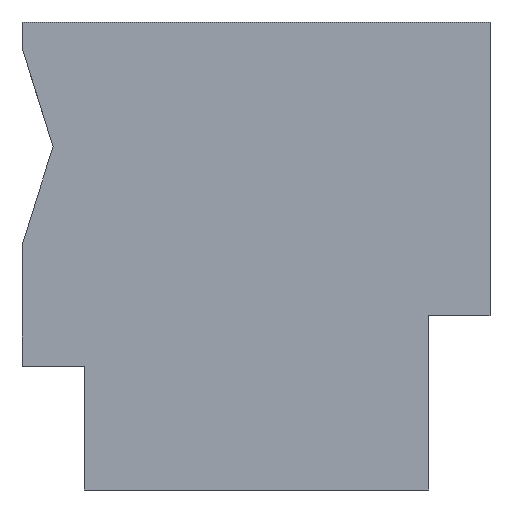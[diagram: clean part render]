
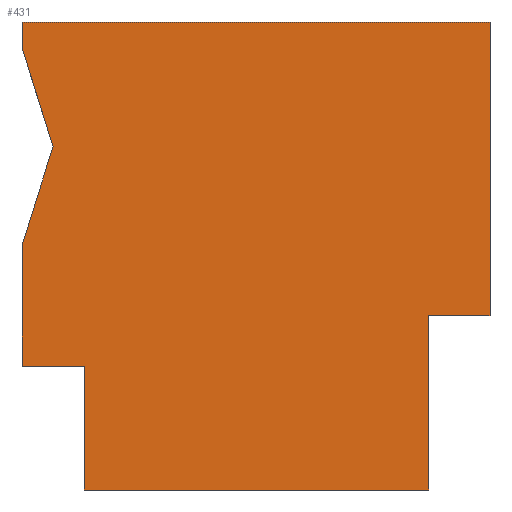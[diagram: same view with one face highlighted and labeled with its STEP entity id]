
A CAD part, left-side view. The second image highlights one B-rep face of the part: STEP entity #431.
In plain terms, the highlighted planar face has unit normal (-1, 0, 0).
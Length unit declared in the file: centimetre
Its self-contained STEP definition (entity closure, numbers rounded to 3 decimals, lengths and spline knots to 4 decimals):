
#1 = LINE ( 'NONE', #707, #872 ) ;
#47 = LINE ( 'NONE', #1071, #87 ) ;
#52 = DIRECTION ( 'NONE',  ( 0., 0., -1. ) ) ;
#55 = VECTOR ( 'NONE', #212, 100. ) ;
#59 = EDGE_CURVE ( 'NONE', #647, #381, #1161, .T. ) ;
#86 = CARTESIAN_POINT ( 'NONE',  ( 0., 866.5058, 264.6785 ) ) ;
#87 = VECTOR ( 'NONE', #52, 100. ) ;
#104 = EDGE_CURVE ( 'NONE', #253, #1134, #1042, .T. ) ;
#114 = EDGE_CURVE ( 'NONE', #540, #364, #135, .T. ) ;
#122 = CARTESIAN_POINT ( 'NONE',  ( 0., 1000., 1000. ) ) ;
#133 = CARTESIAN_POINT ( 'NONE',  ( 0., 0., 1000. ) ) ;
#135 = LINE ( 'NONE', #362, #317 ) ;
#143 = VECTOR ( 'NONE', #874, 100. ) ;
#147 = EDGE_CURVE ( 'NONE', #1134, #726, #161, .T. ) ;
#155 = CARTESIAN_POINT ( 'NONE',  ( 0., 0., 1000. ) ) ;
#161 = LINE ( 'NONE', #155, #1140 ) ;
#180 = VECTOR ( 'NONE', #1209, 100. ) ;
#210 = VERTEX_POINT ( 'NONE', #86 ) ;
#212 = DIRECTION ( 'NONE',  ( 0., 1., 0. ) ) ;
#217 = CARTESIAN_POINT ( 'NONE',  ( 0., 131.3466, 0. ) ) ;
#222 = DIRECTION ( 'NONE',  ( 0., 1., 0. ) ) ;
#252 = CARTESIAN_POINT ( 'NONE',  ( 0., 1000., 0. ) ) ;
#253 = VERTEX_POINT ( 'NONE', #517 ) ;
#254 = LINE ( 'NONE', #1179, #1195 ) ;
#268 = EDGE_LOOP ( 'NONE', ( #1105, #298, #1294, #719, #495, #303, #877, #520, #329, #1016, #827 ) ) ;
#298 = ORIENTED_EDGE ( 'NONE', *, *, #1048, .T. ) ;
#303 = ORIENTED_EDGE ( 'NONE', *, *, #147, .F. ) ;
#317 = VECTOR ( 'NONE', #1149, 100. ) ;
#320 = AXIS2_PLACEMENT_3D ( 'NONE', #122, #1135, #904 ) ;
#329 = ORIENTED_EDGE ( 'NONE', *, *, #862, .T. ) ;
#333 = PLANE ( 'NONE',  #320 ) ;
#334 = EDGE_CURVE ( 'NONE', #210, #1153, #710, .T. ) ;
#362 = CARTESIAN_POINT ( 'NONE',  ( 0., 1000., 522.2248 ) ) ;
#364 = VERTEX_POINT ( 'NONE', #532 ) ;
#381 = VERTEX_POINT ( 'NONE', #217 ) ;
#431 = ADVANCED_FACE ( 'NONE', ( #819 ), #333, .F. ) ;
#436 = LINE ( 'NONE', #453, #143 ) ;
#453 = CARTESIAN_POINT ( 'NONE',  ( 0., 1000., 1000. ) ) ;
#480 = LINE ( 'NONE', #1287, #961 ) ;
#493 = CARTESIAN_POINT ( 'NONE',  ( 0., 866.5058, 264.6785 ) ) ;
#495 = ORIENTED_EDGE ( 'NONE', *, *, #685, .F. ) ;
#517 = CARTESIAN_POINT ( 'NONE',  ( 0., 1000., 1000. ) ) ;
#520 = ORIENTED_EDGE ( 'NONE', *, *, #847, .T. ) ;
#532 = CARTESIAN_POINT ( 'NONE',  ( 0., 1000., 522.2248 ) ) ;
#540 = VERTEX_POINT ( 'NONE', #601 ) ;
#587 = CARTESIAN_POINT ( 'NONE',  ( 0., 1000., 945.2763 ) ) ;
#601 = CARTESIAN_POINT ( 'NONE',  ( 0., 933.7479, 733.5269 ) ) ;
#616 = LINE ( 'NONE', #1000, #180 ) ;
#625 = CARTESIAN_POINT ( 'NONE',  ( 0., 0., 372.5168 ) ) ;
#646 = EDGE_CURVE ( 'NONE', #364, #1153, #616, .T. ) ;
#647 = VERTEX_POINT ( 'NONE', #1021 ) ;
#685 = EDGE_CURVE ( 'NONE', #726, #1152, #1, .T. ) ;
#707 = CARTESIAN_POINT ( 'NONE',  ( 0., 131.3466, 372.5168 ) ) ;
#710 = LINE ( 'NONE', #493, #55 ) ;
#719 = ORIENTED_EDGE ( 'NONE', *, *, #1264, .F. ) ;
#726 = VERTEX_POINT ( 'NONE', #625 ) ;
#819 = FACE_OUTER_BOUND ( 'NONE', #268, .T. ) ;
#827 = ORIENTED_EDGE ( 'NONE', *, *, #646, .T. ) ;
#847 = EDGE_CURVE ( 'NONE', #253, #995, #436, .T. ) ;
#849 = CARTESIAN_POINT ( 'NONE',  ( 0., 131.3466, 372.5168 ) ) ;
#858 = CARTESIAN_POINT ( 'NONE',  ( 0., 1000., 1000. ) ) ;
#862 = EDGE_CURVE ( 'NONE', #995, #540, #254, .T. ) ;
#864 = DIRECTION ( 'NONE',  ( 0., 0., -1. ) ) ;
#872 = VECTOR ( 'NONE', #222, 100. ) ;
#874 = DIRECTION ( 'NONE',  ( 0., 0., -1. ) ) ;
#877 = ORIENTED_EDGE ( 'NONE', *, *, #104, .F. ) ;
#904 = DIRECTION ( 'NONE',  ( 0., 0., -1. ) ) ;
#961 = VECTOR ( 'NONE', #1296, 100. ) ;
#995 = VERTEX_POINT ( 'NONE', #587 ) ;
#1000 = CARTESIAN_POINT ( 'NONE',  ( 0., 1000., 1000. ) ) ;
#1016 = ORIENTED_EDGE ( 'NONE', *, *, #114, .T. ) ;
#1021 = CARTESIAN_POINT ( 'NONE',  ( 0., 866.5058, 0. ) ) ;
#1033 = VECTOR ( 'NONE', #1253, 100. ) ;
#1042 = LINE ( 'NONE', #858, #1033 ) ;
#1048 = EDGE_CURVE ( 'NONE', #210, #647, #480, .T. ) ;
#1057 = DIRECTION ( 'NONE',  ( 0., -1., 0. ) ) ;
#1071 = CARTESIAN_POINT ( 'NONE',  ( 0., 131.3466, 372.5168 ) ) ;
#1105 = ORIENTED_EDGE ( 'NONE', *, *, #334, .F. ) ;
#1134 = VERTEX_POINT ( 'NONE', #133 ) ;
#1135 = DIRECTION ( 'NONE',  ( 1., 0., 0. ) ) ;
#1140 = VECTOR ( 'NONE', #864, 100. ) ;
#1149 = DIRECTION ( 'NONE',  ( 0., 0.299, -0.954 ) ) ;
#1152 = VERTEX_POINT ( 'NONE', #849 ) ;
#1153 = VERTEX_POINT ( 'NONE', #1237 ) ;
#1161 = LINE ( 'NONE', #252, #1225 ) ;
#1179 = CARTESIAN_POINT ( 'NONE',  ( 0., 933.7479, 733.5269 ) ) ;
#1195 = VECTOR ( 'NONE', #1258, 100. ) ;
#1209 = DIRECTION ( 'NONE',  ( 0., 0., -1. ) ) ;
#1225 = VECTOR ( 'NONE', #1057, 100. ) ;
#1237 = CARTESIAN_POINT ( 'NONE',  ( 0., 1000., 264.6785 ) ) ;
#1253 = DIRECTION ( 'NONE',  ( 0., -1., 0. ) ) ;
#1258 = DIRECTION ( 'NONE',  ( 0., -0.299, -0.954 ) ) ;
#1264 = EDGE_CURVE ( 'NONE', #1152, #381, #47, .T. ) ;
#1287 = CARTESIAN_POINT ( 'NONE',  ( 0., 866.5058, 264.6785 ) ) ;
#1294 = ORIENTED_EDGE ( 'NONE', *, *, #59, .T. ) ;
#1296 = DIRECTION ( 'NONE',  ( 0., 0., -1. ) ) ;
